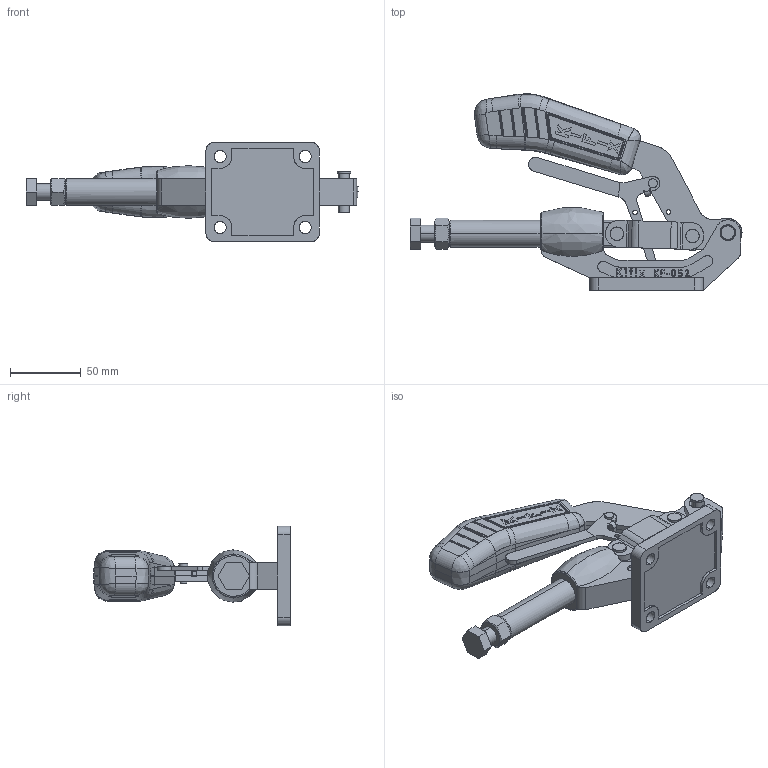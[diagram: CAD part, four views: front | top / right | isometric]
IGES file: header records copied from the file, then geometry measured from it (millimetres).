
Start section: SolidWorks IGES file using analytic representation for surfaces
Global section: file name: C:\Projetos\Grampos\KF-052\KF-052 TR\KF-052 TR.IGS; native system: SolidWorks 2015; preprocessor: SolidWorks 2015; author: Ricardo; date: 170809.164906; units: millimetre
Bounding box: 234.01 x 138.54 x 70 mm (x, y, z)
Surface area: 98480.4 mm2 (no closed solid volume)
Topology: 0 solids, 0 shells, 1085 faces, 13017 edges, 12993 vertices
Faces by surface type: bspline 775, revolution 310
